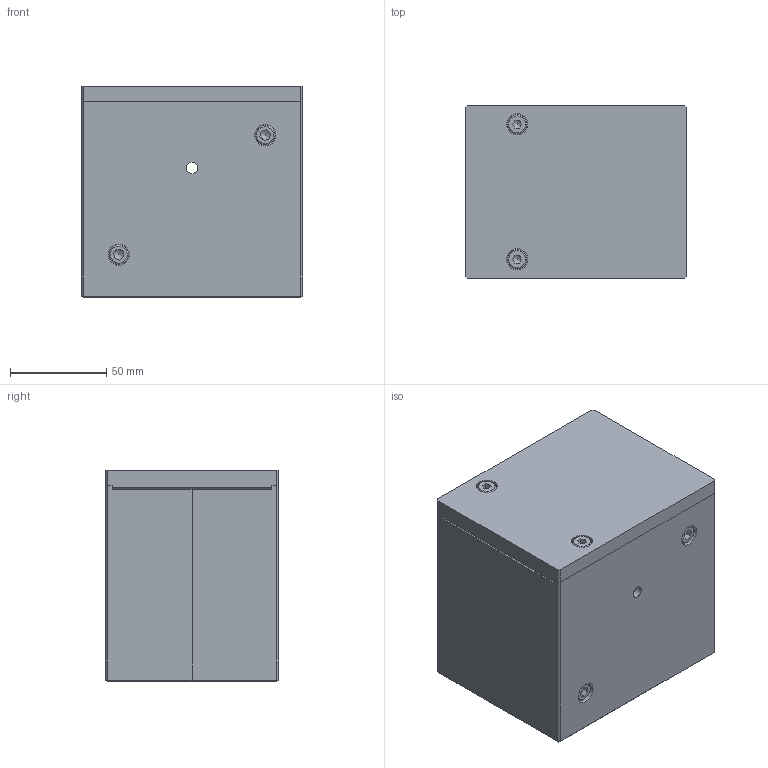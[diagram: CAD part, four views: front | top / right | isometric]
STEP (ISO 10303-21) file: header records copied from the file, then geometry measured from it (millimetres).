
FILE_DESCRIPTION((''),'2;1');
FILE_NAME('C:\Documents and Settings\Administrator\My Documents\Andys Backup Data\ANDY''S INVENTOR\INVENTOR LIBRARIES\MINITEC INVENTOR LIBRARIES\READY FOR USE MODULES LR\A PACKED FILES\STEP FILES\28.0045 TIMING BELT PULLEY T90 SS.stp','2010-06-30T15:42:51',('Administrator'),(''),'Autodesk Inventor 2009','Autodesk Inventor 2009','');
FILE_SCHEMA(('AUTOMOTIVE_DESIGN { 1 0 10303 214 1 1 1 1 }'));
Length unit declared in the file: millimetre
Products named in the file (8): 28.0045 TIMING BELT PULLEY T90 SS; 28.0045 PULLEY; 28.0045 T90 BEARING 35X62X14 SS; 28.0082 T90 RIGHT SIDE; 28.0082 T90 LEFT SIDE; 28.0082 T90 TOP; 21.1238/1  M6 x 16 SS; M6X55 CAP SCREW HIGH HEAD SS
Assembly tree (12 placements, depth 2):
  28.0045 TIMING BELT PULLEY T90 SS
    28.0045 PULLEY
    28.0045 T90 BEARING 35X62X14 SS  x2
    28.0082 T90 RIGHT SIDE
    28.0082 T90 LEFT SIDE
    28.0082 T90 TOP
    21.1238/1  M6 x 16 SS  x2
    M6X55 CAP SCREW HIGH HEAD SS  x4
Bounding box: 115 x 90 x 110 mm (x, y, z)
Volume: 924251.6 mm3; surface area: 190293.9 mm2
Topology: 12 solids, 14 shells, 420 faces, 1105 edges, 695 vertices
Faces by surface type: plane 167, bspline 123, cylinder 77, sphere 22, cone 17, torus 14
Full cylindrical faces by diameter (mm): 6 x10, 6.6 x2, 8 x1, 10 x6, 35 x3, 42 x1, 43.802 x4, 53.198 x2, 56 x1, 62 x3, 66.04 x1
Entity records: 10133 total; most frequent: CARTESIAN_POINT 2583, ORIENTED_EDGE 1474, DIRECTION 1463, EDGE_CURVE 737, AXIS2_PLACEMENT_3D 502, VERTEX_POINT 500, VECTOR 459, LINE 459
